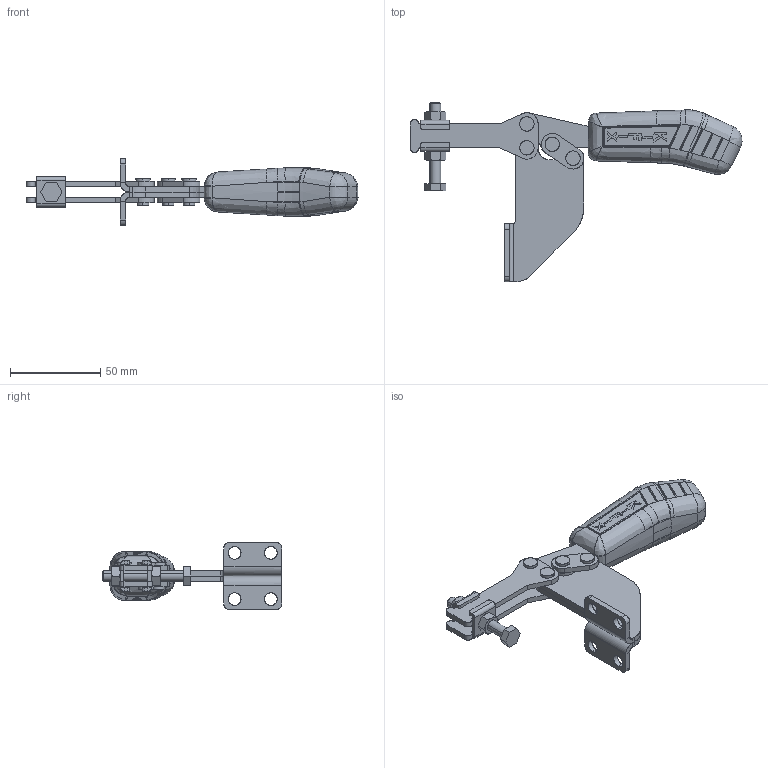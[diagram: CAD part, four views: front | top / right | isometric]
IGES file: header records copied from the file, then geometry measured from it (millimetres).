
Start section: SolidWorks IGES file using analytic representation for surfaces
Global section: file name: C:\Projetos\Grampos\KF-152\KF-152 F\KF-152 F.IGS; native system: SolidWorks 2013; preprocessor: SolidWorks 2013; author: Ricardo; date: 140815.142131; units: millimetre
Bounding box: 183.5 x 99.2 x 37 mm (x, y, z)
Surface area: 42439.6 mm2 (no closed solid volume)
Topology: 0 solids, 0 shells, 648 faces, 7459 edges, 7446 vertices
Faces by surface type: bspline 397, revolution 251
